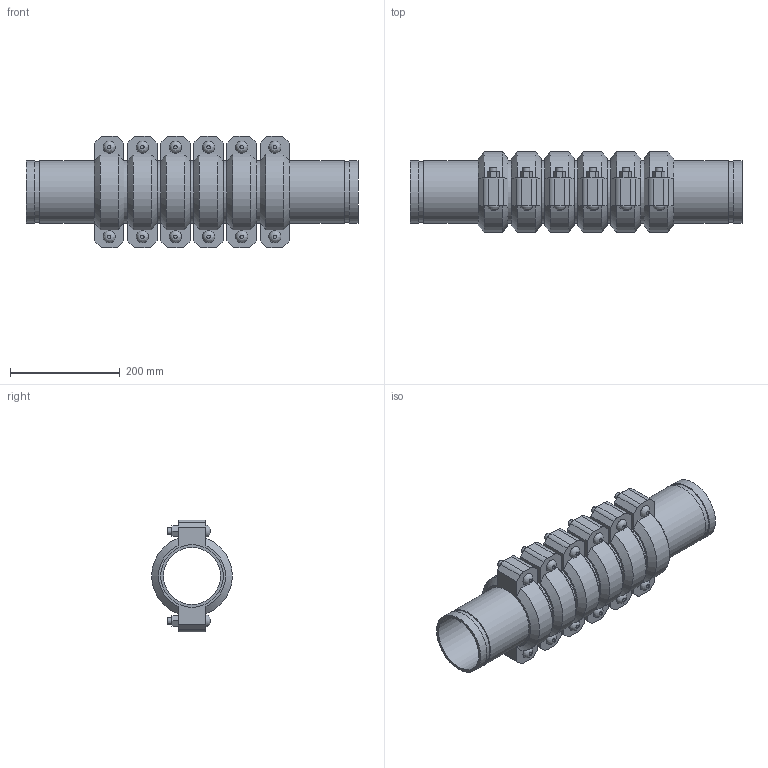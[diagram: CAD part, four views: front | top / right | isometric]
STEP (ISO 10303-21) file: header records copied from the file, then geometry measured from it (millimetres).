
FILE_DESCRIPTION(/* description */ ('VIC EXPANSION JOINT 6 COUPLINGS COMPRESSED STYLE 155 (OGS)','CAx-IF Rec.Pracs.---Representation and Presentation of Product Manufacturing Information (PMI)---4.0---2014-10-13'),/* implementation_level */ '2;1');
FILE_NAME(/* name */ 'C:\Users\kkamble\AppData\Roaming\Autodesk\ApplicationPlugins\Victaulic.Temp\A354\Victaulic_IPS_Expansion Joint_Compressed_6 Couplings_Style 155 (OGS)_4 (100).stp',/* time_stamp */ '2021-06-27T00:31:50+02:00',/* author */ ('kkamble'),/* organization */ ('Victaulic'),/* preprocessor_version */ 'ST-DEVELOPER v17.2',/* originating_system */ 'Autodesk Inventor 2019',/* authorisation */ '');
FILE_SCHEMA (('AP242_MANAGED_MODEL_BASED_3D_ENGINEERING_MIM_LF { 1 0 10303 442 1 1 4 }'));
Length unit declared in the file: inch
Products named in the file (4): 155-04.0; Nipple-04.0; Nipple-04.0_1; 075_6_Coup-04.0
Assembly tree (13 placements, depth 2):
  155-04.0
    Nipple-04.0  x2
    Nipple-04.0_1  x5
    075_6_Coup-04.0  x6
Bounding box: 606.3 x 147.32 x 203.96 mm (x, y, z)
Volume: 3849283.3 mm3; surface area: 925842.2 mm2
Topology: 13 solids, 25 shells, 426 faces, 1008 edges, 708 vertices
Faces by surface type: plane 258, cylinder 132, cone 24, bspline 12
Full cylindrical faces by diameter (mm): 12.7 x24, 14.605 x12, 103.988 x7, 107.95 x6, 110.084 x14, 114.3 x33
Entity records: 2826 total; most frequent: CARTESIAN_POINT 497, DIRECTION 469, ORIENTED_EDGE 386, EDGE_CURVE 193, AXIS2_PLACEMENT_3D 188, VERTEX_POINT 138, EDGE_LOOP 107, LINE 93
